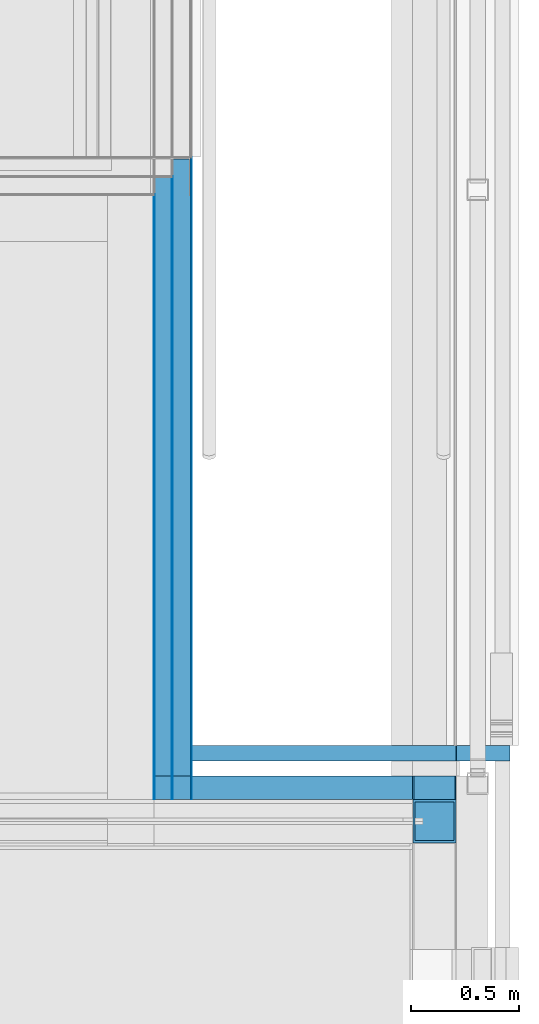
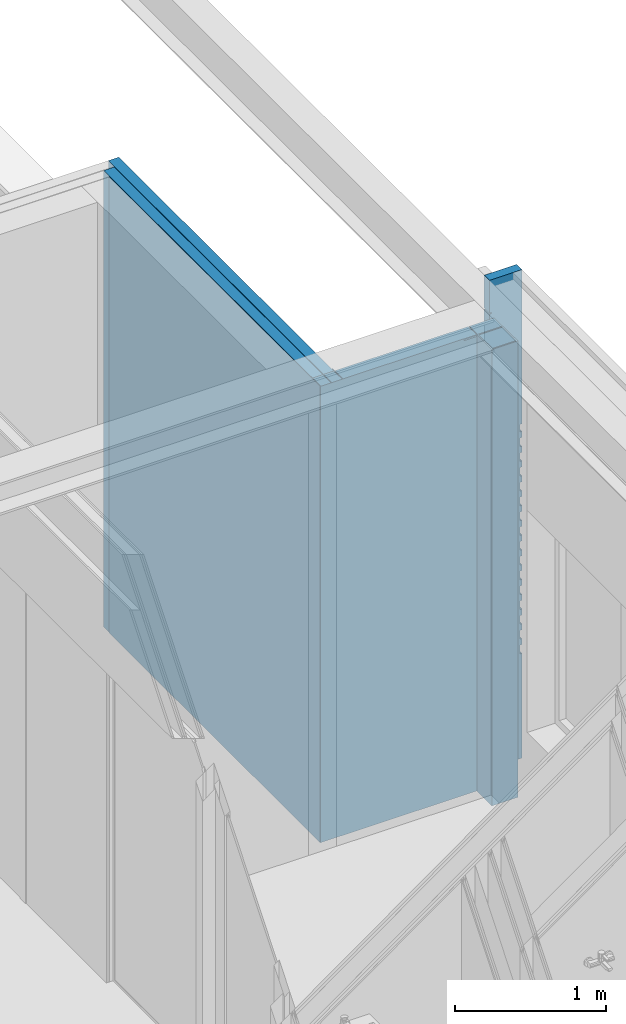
# One storey, part 89 of 137: 10 building element parts, 3 elements without a shape of their own.
"""IFC2X3 building model written with IfcOpenShell, lengths in millimetres."""

import ifcopenshell
import ifcopenshell.guid

model = None  # the IFC model being written
_history = None  # IfcOwnerHistory: only IFC2X3 demands one
_inside = {}  # id of a spatial element -> (the spatial element, [elements in it])
_under = {}  # id of a project, library or spatial element -> (it, [spatial elements below it])
_declared = {}  # id of a project -> (the project, [libraries it declares])
_typed = {}  # id of a type object -> (the type object, [elements of that type])
_made_of = {}  # id of a material, layer set ... -> (it, [elements and type objects made of it])


def new_model(schema):
    """Start an empty IFC model of exactly this schema.

    Asked for "IFC4X3", IfcOpenShell would pick the latest addendum, in which some entities
    have other attributes; the version numbers below select the first issue.
    IFC2X3 requires an IfcOwnerHistory on every rooted entity: one is made here for all.
    """
    global model, _history
    if schema == "IFC4X3":
        model = ifcopenshell.file(schema_version=(4, 3, 0, 0))
    else:
        model = ifcopenshell.file(schema=schema)
    _inside.clear()
    _under.clear()
    _declared.clear()
    _typed.clear()
    _made_of.clear()
    _history = None
    if model.schema == "IFC2X3":
        org = make("IfcOrganization", Name="unknown")
        user = make(
            "IfcPersonAndOrganization",
            ThePerson=make("IfcPerson", FamilyName="unknown"),
            TheOrganization=org,
        )
        app = make(
            "IfcApplication",
            ApplicationDeveloper=org,
            Version="unknown",
            ApplicationFullName="unknown",
            ApplicationIdentifier="unknown",
        )
        _history = make(
            "IfcOwnerHistory",
            OwningUser=user,
            OwningApplication=app,
            ChangeAction="ADDED",
            CreationDate=0,
        )
    return model


def make(cls, **values):
    """One entity of the class cls with the attributes given. An attribute that is None is left unset."""
    return model.create_entity(
        cls, **{name: value for name, value in values.items() if value is not None}
    )


def entity(cls, *values):
    """Any entity or typed value of the class cls, its attributes in the order of the schema. None: left unset."""
    e = model.create_entity(cls)
    for i, value in enumerate(values):
        if value is not None:
            e[i] = value
    return e


def rooted(cls, **values):
    """An entity with a GlobalId (a new one), such as an element, a storey or a relation."""
    return make(cls, GlobalId=ifcopenshell.guid.new(), OwnerHistory=_history, **values)


def si_unit(unit_type, name, prefix=None):
    """IfcSIUnit, for example si_unit("LENGTHUNIT", "METRE", prefix="MILLI")."""
    return make("IfcSIUnit", UnitType=unit_type, Prefix=prefix, Name=name)


def converted_unit(unit_type, name, factor, base, dimensions=None, offset=None):
    """IfcConversionBasedUnit, such as the inch: factor (a typed value) times the base unit."""
    return make(
        "IfcConversionBasedUnit"
        if offset is None
        else "IfcConversionBasedUnitWithOffset",
        ConversionOffset=offset,
        Dimensions=None
        if dimensions is None
        else entity("IfcDimensionalExponents", *dimensions),
        UnitType=unit_type,
        Name=name,
        ConversionFactor=make(
            "IfcMeasureWithUnit", ValueComponent=factor, UnitComponent=base
        ),
    )


def derived_unit(unit_type, elements):
    """IfcDerivedUnit: a product of units, each with its exponent."""
    return make(
        "IfcDerivedUnit",
        Elements=[
            make("IfcDerivedUnitElement", Unit=unit, Exponent=power)
            for unit, power in elements
        ],
        UnitType=unit_type,
    )


def money_unit(currency):
    """IfcMonetaryUnit."""
    return make("IfcMonetaryUnit", Currency=currency)


def assignment(units):
    """IfcUnitAssignment: the units of a project."""
    return None if units is None else make("IfcUnitAssignment", Units=units)


def point(xyz):
    """IfcCartesianPoint."""
    return None if xyz is None else make("IfcCartesianPoint", Coordinates=xyz)


def direction(xyz):
    """IfcDirection."""
    return None if xyz is None else make("IfcDirection", DirectionRatios=xyz)


def frame(location, z_axis=None, x_axis=None):
    """IfcAxis2Placement3D, a coordinate frame: its origin and axes. An axis left out is left unset."""
    return make(
        "IfcAxis2Placement3D",
        Location=point(location),
        Axis=direction(z_axis),
        RefDirection=direction(x_axis),
    )


def origin_with_axes():
    """The frame at (0, 0, 0) with the z axis (0, 0, 1) and the x axis (1, 0, 0) written out."""
    return frame((0.0, 0.0, 0.0), z_axis=(0.0, 0.0, 1.0), x_axis=(1.0, 0.0, 0.0))


def place(relative_to, where):
    """IfcLocalPlacement: puts the frame where relative to a parent placement (None: the world)."""
    return make(
        "IfcLocalPlacement", PlacementRelTo=relative_to, RelativePlacement=where
    )


def context(
    kind, dimensions, precision=None, world=None, true_north=None, identifier=None
):
    """IfcGeometricRepresentationContext, for example the 3D "Model" context."""
    return make(
        "IfcGeometricRepresentationContext",
        ContextIdentifier=identifier,
        ContextType=kind,
        CoordinateSpaceDimension=dimensions,
        Precision=precision,
        WorldCoordinateSystem=world,
        TrueNorth=true_north,
    )


def subcontext(parent, identifier, kind, view, scale=None):
    """IfcGeometricRepresentationSubContext, for example "Body" below "Model"."""
    return make(
        "IfcGeometricRepresentationSubContext",
        ContextIdentifier=identifier,
        ContextType=kind,
        ParentContext=parent,
        TargetScale=scale,
        TargetView=view,
    )


def project(units=None, contexts=None):
    """IfcProject with its units and contexts."""
    return rooted(
        "IfcProject",
        Name="project",
        RepresentationContexts=contexts,
        UnitsInContext=assignment(units),
    )


def spatial(cls, under=None, at=None, **own):
    """A site, building, storey or space (cls), placed at a placement, below another one or the project."""
    s = rooted(cls, ObjectPlacement=at, **own)
    if under is not None:
        _under.setdefault(under.id(), (under, []))[1].append(s)
    return s


def faces_of(points, faces, orient=None, outer=None):
    """IfcFace entities. A face is a list of loops; a loop is a list of indices into points, from 0.

    orient and outer hold one flag for each loop. By default every Orientation is true, the
    first loop of a face is its IfcFaceOuterBound and the others are IfcFaceBound.
    """
    made = []
    for i, loops in enumerate(faces):
        bounds = []
        for j, loop in enumerate(loops):
            is_outer = j == 0 if outer is None else outer[i][j]
            bounds.append(
                make(
                    "IfcFaceOuterBound" if is_outer else "IfcFaceBound",
                    Bound=make("IfcPolyLoop", Polygon=[points[k] for k in loop]),
                    Orientation=True if orient is None else orient[i][j],
                )
            )
        made.append(make("IfcFace", Bounds=bounds))
    return made


def faceted_brep(points, faces, orient=None, outer=None, voids=None):
    """IfcFacetedBrep: a solid bounded by flat faces; with voids (closed shells), ...WithVoids."""
    shared = [point(p) for p in points]
    hull = make("IfcClosedShell", CfsFaces=faces_of(shared, faces, orient, outer))
    if voids is None:
        return make("IfcFacetedBrep", Outer=hull)
    return make(
        "IfcFacetedBrepWithVoids",
        Outer=hull,
        Voids=[
            make(cls, CfsFaces=faces_of(shared, fs, o, b)) for cls, fs, o, b in voids
        ],
    )


def shape(context_of_items, identifier, shape_type, items):
    """IfcShapeRepresentation: the items that make up one representation, for example the "Body"."""
    return make(
        "IfcShapeRepresentation",
        ContextOfItems=context_of_items,
        RepresentationIdentifier=identifier,
        RepresentationType=shape_type,
        Items=items,
    )


def material(Name=None, Category=None):
    """IfcMaterial."""
    return make("IfcMaterial", Name=Name, Category=Category)


def made_of(thing, what):
    """Note that an element or type object is made of a material, layer set ...; save() writes the relation."""
    if what is not None:
        _made_of.setdefault(what.id(), (what, []))[1].append(thing)
    return thing


def type_object(cls, material=None, **own):
    """A type object (cls), such as IfcWallType, which elements share."""
    return made_of(rooted(cls, **own), material)


def element(
    cls,
    number,
    at=None,
    inside=None,
    cuts=None,
    type_object=None,
    material=None,
    context=None,
    identifier="Body",
    shape_type=None,
    held_by="IfcProductDefinitionShape",
    body=None,
    shapes=None,
    **own,
):
    """One element of the class cls, such as IfcWall. Its Tag is "e" and its number.

    at: its placement. inside: the storey or other place that contains it. cuts: it is an
    opening in that element (IfcRelVoidsElement). A single representation is given by context,
    identifier, shape_type and body (its items); several are given by shapes. held_by: the class
    of the entity that holds the representations. save() writes the other relations.
    """
    e = rooted(cls, Tag="e%d" % number, ObjectPlacement=at, **own)
    if body is not None:
        shapes = [shape(context, identifier, shape_type, body)]
    if shapes is not None:
        e.Representation = make(held_by, Representations=shapes)
    if inside is not None:
        _inside.setdefault(inside.id(), (inside, []))[1].append(e)
    if cuts is not None:
        rooted(
            "IfcRelVoidsElement", RelatingBuildingElement=cuts, RelatedOpeningElement=e
        )
    if type_object is not None:
        _typed.setdefault(type_object.id(), (type_object, []))[1].append(e)
    return made_of(e, material)


def aggregate(whole, parts):
    """IfcRelAggregates: a whole, such as a stair, and the parts it consists of."""
    return rooted("IfcRelAggregates", RelatingObject=whole, RelatedObjects=parts)


def save(model, path):
    """Write the relations noted so far, then the file.

    IfcRelAggregates (storeys below a building ...), IfcRelContainedInSpatialStructure (elements
    in a storey), IfcRelDefinesByType, IfcRelAssociatesMaterial and IfcRelDeclares: one each for
    every whole, place, type object, material and project.
    """
    for whole, parts in _under.values():
        aggregate(whole, parts)
    for where, things in _inside.values():
        rooted(
            "IfcRelContainedInSpatialStructure",
            RelatedElements=things,
            RelatingStructure=where,
        )
    for kind, things in _typed.values():
        rooted("IfcRelDefinesByType", RelatedObjects=things, RelatingType=kind)
    for what, things in _made_of.values():
        rooted("IfcRelAssociatesMaterial", RelatedObjects=things, RelatingMaterial=what)
    for by, libraries in _declared.values():
        rooted("IfcRelDeclares", RelatingContext=by, RelatedDefinitions=libraries)
    model.write(path)


model = new_model("IFC2X3")

# Units and contexts
model_context = context("Model", 3, precision=0.01, world=origin_with_axes(), true_north=direction((0.0, 1.0)))
body_context = subcontext(model_context, "Body", "Model", "MODEL_VIEW")
ifc_project = project(units=[si_unit("LENGTHUNIT", "METRE", prefix="MILLI"), si_unit("AREAUNIT", "SQUARE_METRE"), si_unit("VOLUMEUNIT", "CUBIC_METRE"), converted_unit("PLANEANGLEUNIT", "DEGREE", entity("IfcPlaneAngleMeasure", 0.0174532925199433), si_unit("PLANEANGLEUNIT", "RADIAN"), dimensions=[0, 0, 0, 0, 0, 0, 0]), money_unit("EUR"), converted_unit("TIMEUNIT", "Year", entity("IfcTimeMeasure", 31556926.0), si_unit("TIMEUNIT", "SECOND"), dimensions=[0, 0, 1, 0, 0, 0, 0]), si_unit("MASSUNIT", "GRAM", prefix="KILO"), si_unit("THERMODYNAMICTEMPERATUREUNIT", "DEGREE_CELSIUS"), si_unit("LUMINOUSINTENSITYUNIT", "LUMEN"), si_unit("ENERGYUNIT", "JOULE", prefix="MEGA"), derived_unit("THERMALCONDUCTANCEUNIT", [(si_unit("POWERUNIT", "WATT"), 1), (si_unit("LENGTHUNIT", "METRE"), -1), (si_unit("THERMODYNAMICTEMPERATUREUNIT", "KELVIN"), -1)]), derived_unit("SPECIFICHEATCAPACITYUNIT", [(si_unit("ENERGYUNIT", "JOULE"), 1), (si_unit("MASSUNIT", "GRAM", prefix="KILO"), -1), (si_unit("THERMODYNAMICTEMPERATUREUNIT", "KELVIN"), -1)]), derived_unit("MASSDENSITYUNIT", [(si_unit("MASSUNIT", "GRAM", prefix="KILO"), 1), (si_unit("VOLUMEUNIT", "CUBIC_METRE"), -1)])], contexts=[model_context])

# Site, building, storey
site_placement = place(None, origin_with_axes())
site = spatial("IfcSite", under=ifc_project, at=site_placement, Name="Site", CompositionType="ELEMENT")
building_placement = place(site_placement, origin_with_axes())
building = spatial("IfcBuilding", under=site, at=building_placement, Name="Naam gebouw", CompositionType="ELEMENT")
storey_placement = place(building_placement, frame((0.0, 0.0, 3960.0), z_axis=(0.0, 0.0, 1.0), x_axis=(1.0, 0.0, 0.0)))
storey = spatial("IfcBuildingStorey", under=building, at=storey_placement, Name="1e verdieping", CompositionType="ELEMENT", Elevation=3960.0)

# Wall, building element parts
wall_type_1 = type_object("IfcWallType", Name="21 Buitenwand spouwmuur HSB 464", PredefinedType="NOTDEFINED")
wall_1_placement = place(storey_placement, frame((28500.00002397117, 16749.99778166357, -100.0000000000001), z_axis=(0.0, 0.0, 1.0), x_axis=(1.0, 0.0, 0.0)))
wall_1 = element("IfcWall", 1, at=wall_1_placement, inside=storey, type_object=wall_type_1, Name="21_Wand-x")
ifc_material_1 = material(Name="Steen - Baksteen")
building_element_part_1_placement = place(wall_1_placement, origin_with_axes())
building_element_part_1 = element("IfcBuildingElementPart", 2, at=building_element_part_1_placement, material=ifc_material_1, Name="Steen - Baksteen", context=body_context, shape_type="Brep", body=[
    faceted_brep([(1650.000004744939, 235.0000287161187, 970.0000070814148), (1650.000004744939, 179.9999999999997, 970.0000070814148), (1650.000004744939, 179.9999999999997, 920.0000357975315), (1650.000004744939, 235.0000287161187, 920.0000357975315), (1649.999976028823, 250.0000287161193, 920.0000357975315), (1649.999976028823, 250.0000287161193, 970.0000070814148), (1635.000004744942, 235.0000287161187, 970.0000070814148), (1635.000004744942, 179.9999999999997, 970.0000070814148), (0.0, 250.0000287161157, 970.0000070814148), (0.0, 235.0000287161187, 970.0000070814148), (1635.000004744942, 179.9999999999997, 2710.0), (1649.999976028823, 179.9999999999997, 2710.0), (1649.999976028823, 179.9999999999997, 3960.0), (1400.999975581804, 179.9999999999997, 3960.000001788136), (1400.999975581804, 179.9999999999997, 3695.000001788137), (1415.999975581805, 179.9999999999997, 3695.000001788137), (1415.999975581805, 179.9999999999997, 3685.000001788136), (1399.999976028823, 179.9999999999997, 3685.000001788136), (1399.999976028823, 179.9999999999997, 3555.0), (168.0000000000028, 179.9999999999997, 3555.0), (168.0000000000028, 179.9999999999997, 3700.0), (0.0, 179.9999999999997, 3700.0), (0.0, 179.9999999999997, 0.0), (1649.999976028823, 179.9999999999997, 0.0), (1649.999976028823, 179.9999999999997, 850.0000371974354), (1635.000004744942, 179.9999999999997, 850.0000371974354), (1635.000004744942, 179.9999999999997, 920.0000357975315), (1635.000004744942, 179.9999999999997, 1040.000005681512), (1650.000004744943, 179.9999999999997, 1040.000005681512), (1650.000004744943, 179.9999999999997, 1090.000060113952), (1635.000004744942, 179.9999999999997, 1090.000060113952), (1635.000004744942, 179.9999999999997, 1160.000030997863), (1650.000004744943, 179.9999999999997, 1160.000030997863), (1650.000004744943, 179.9999999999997, 1210.000002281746), (1635.000004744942, 179.9999999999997, 1210.000002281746), (1635.000004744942, 179.9999999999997, 1280.000000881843), (1650.000004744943, 179.9999999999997, 1280.000000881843), (1650.000004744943, 179.9999999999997, 1330.000055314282), (1635.000004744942, 179.9999999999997, 1330.000055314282), (1635.000004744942, 179.9999999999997, 1400.000026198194), (1650.000004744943, 179.9999999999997, 1400.000026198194), (1650.000004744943, 179.9999999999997, 1449.999997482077), (1635.000004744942, 179.9999999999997, 1449.999997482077), (1635.000004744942, 179.9999999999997, 1519.999996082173), (1650.000004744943, 179.9999999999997, 1519.999996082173), (1650.000004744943, 179.9999999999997, 1570.000050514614), (1635.000004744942, 179.9999999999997, 1570.000050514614), (1635.000004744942, 179.9999999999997, 1640.000049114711), (1650.000004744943, 179.9999999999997, 1640.000049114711), (1650.000004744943, 179.9999999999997, 1689.999992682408), (1635.000004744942, 179.9999999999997, 1689.999992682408), (1635.000004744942, 179.9999999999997, 1759.999991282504), (1650.000004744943, 179.9999999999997, 1759.999991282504), (1650.000004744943, 179.9999999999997, 1810.000073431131), (1635.000004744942, 179.9999999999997, 1810.000073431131), (1635.000004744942, 179.9999999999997, 1880.000044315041), (1650.000004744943, 179.9999999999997, 1880.000044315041), (1650.000004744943, 179.9999999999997, 1930.000015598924), (1635.000004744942, 179.9999999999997, 1930.000015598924), (1635.000004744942, 179.9999999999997, 1999.999986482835), (1650.000004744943, 179.9999999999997, 1999.999986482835), (1650.000004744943, 179.9999999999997, 2050.000068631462), (1635.000004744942, 179.9999999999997, 2050.000068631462), (1635.000004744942, 179.9999999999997, 2120.000039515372), (1650.000004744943, 179.9999999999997, 2120.000039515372), (1650.000004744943, 179.9999999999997, 2170.000010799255), (1635.000004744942, 179.9999999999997, 2170.000010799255), (1635.000004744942, 179.9999999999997, 2239.999981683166), (1650.000004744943, 179.9999999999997, 2239.999981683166), (1650.000004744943, 179.9999999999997, 2290.000063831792), (1635.000004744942, 179.9999999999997, 2290.000063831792), (1635.000004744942, 179.9999999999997, 2360.000062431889), (1650.000004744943, 179.9999999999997, 2360.000062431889), (1650.000004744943, 179.9999999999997, 2410.000005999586), (1635.000004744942, 179.9999999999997, 2410.000005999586), (1635.000004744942, 179.9999999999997, 2480.000004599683), (1650.000004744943, 179.9999999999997, 2480.000004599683), (1650.000004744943, 179.9999999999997, 2530.000059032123), (1635.000004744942, 179.9999999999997, 2530.000059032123), (1635.000004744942, 179.9999999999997, 2600.00005763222), (1650.000004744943, 179.9999999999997, 2600.00005763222), (1650.000004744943, 179.9999999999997, 2650.000001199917), (1635.000004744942, 179.9999999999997, 2650.000001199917), (1534.999976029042, 179.9999999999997, 646.8776725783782), (1464.999976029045, 179.9999999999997, 646.8776725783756), (1464.999976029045, 179.9999999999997, 725.000000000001), (1449.999976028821, 179.9999999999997, 725.000000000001), (1449.999976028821, 179.9999999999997, 825.0000000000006), (1549.999976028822, 179.9999999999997, 825.0000000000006), (1549.999976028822, 179.9999999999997, 725.000000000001), (1534.999976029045, 179.9999999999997, 725.000000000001), (1635.000004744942, 235.0000287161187, 920.0000357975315), (0.0, 235.0000287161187, 920.0000357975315), (0.0, 250.0000287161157, 920.0000357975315), (1635.000004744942, 235.0000287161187, 1040.000005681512), (0.0, 235.0000287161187, 2710.0), (0.0, 235.0000287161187, 2650.000001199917), (0.0, 250.0000287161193, 2650.000001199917), (0.0, 250.0000287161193, 2600.00005763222), (0.0, 235.0000287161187, 2600.00005763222), (0.0, 235.0000287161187, 2530.000059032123), (0.0, 250.0000287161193, 2530.000059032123), (0.0, 250.0000287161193, 2480.000004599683), (0.0, 235.0000287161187, 2480.000004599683), (0.0, 235.0000287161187, 2410.000005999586), (0.0, 250.0000287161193, 2410.000005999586), (0.0, 250.0000287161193, 2360.000062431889), (0.0, 235.0000287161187, 2360.000062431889), (0.0, 235.0000287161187, 2290.000063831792), (0.0, 250.0000287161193, 2290.000063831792), (0.0, 250.0000287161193, 2239.999981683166), (0.0, 235.0000287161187, 2239.999981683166), (0.0, 235.0000287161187, 2170.000010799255), (0.0, 250.0000287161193, 2170.000010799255), (0.0, 250.0000287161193, 2120.000039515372), (0.0, 235.0000287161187, 2120.000039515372), (0.0, 235.0000287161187, 2050.000068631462), (0.0, 250.0000287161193, 2050.000068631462), (0.0, 250.0000287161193, 1999.999986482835), (0.0, 235.0000287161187, 1999.999986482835), (0.0, 235.0000287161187, 1930.000015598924), (0.0, 250.0000287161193, 1930.000015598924), (0.0, 250.0000287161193, 1880.000044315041), (0.0, 235.0000287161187, 1880.000044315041), (0.0, 235.0000287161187, 1810.000073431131), (0.0, 250.0000287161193, 1810.000073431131), (0.0, 250.0000287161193, 1759.999991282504), (0.0, 235.0000287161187, 1759.999991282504), (0.0, 235.0000287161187, 1689.999992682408), (0.0, 250.0000287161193, 1689.999992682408), (0.0, 250.0000287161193, 1640.000049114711), (0.0, 235.0000287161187, 1640.000049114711), (0.0, 235.0000287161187, 1570.000050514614), (0.0, 250.0000287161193, 1570.000050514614), (0.0, 250.0000287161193, 1519.999996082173), (0.0, 235.0000287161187, 1519.999996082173), (0.0, 235.0000287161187, 1449.999997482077), (0.0, 250.0000287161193, 1449.999997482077), (0.0, 250.0000287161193, 1400.000026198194), (0.0, 235.0000287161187, 1400.000026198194), (0.0, 235.0000287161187, 1330.000055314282), (0.0, 250.0000287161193, 1330.000055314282), (0.0, 250.0000287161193, 1280.000000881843), (0.0, 235.0000287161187, 1280.000000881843), (0.0, 235.0000287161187, 1210.000002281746), (0.0, 250.0000287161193, 1210.000002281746), (0.0, 250.0000287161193, 1160.000030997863), (0.0, 235.0000287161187, 1160.000030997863), (0.0, 235.0000287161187, 1090.000060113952), (0.0, 250.0000287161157, 1090.000060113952), (0.0, 250.0000287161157, 1040.000005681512), (0.0, 235.0000287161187, 1040.000005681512), (0.0, 235.0000287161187, 850.0000371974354), (0.0, 250.0, 850.0000371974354), (0.0, 250.0, 0.0), (0.0, 250.0, 3700.0), (0.0, 250.0, 2710.0), (1649.999976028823, 235.0000287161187, 2710.0), (1635.000004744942, 235.0000287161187, 2710.0), (1649.999976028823, 250.0, 2710.0), (1649.999976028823, 250.0, 3960.0), (1400.999975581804, 250.0, 3960.000001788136), (1400.999975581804, 250.0, 3695.000001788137), (1415.999975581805, 250.0, 3695.000001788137), (1415.999975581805, 250.0, 3685.000001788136), (1399.999976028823, 250.0, 3685.000001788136), (1399.999976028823, 250.0, 3555.0), (168.0000000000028, 250.0, 3555.0), (168.0000000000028, 250.0, 3700.0), (1649.999976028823, 250.0, 0.0), (1649.999976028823, 235.0000287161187, 850.0000371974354), (1649.999976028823, 250.0, 850.0000371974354), (1635.000004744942, 235.0000287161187, 850.0000371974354), (1650.000004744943, 235.0000287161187, 1040.000005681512), (1649.999976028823, 250.0000287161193, 1040.000005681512), (1650.000004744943, 235.0000287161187, 1090.000060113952), (1649.999976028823, 250.0000287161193, 1090.000060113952), (1635.000004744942, 235.0000287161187, 1090.000060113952), (1635.000004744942, 235.0000287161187, 1160.000030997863), (1650.000004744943, 235.0000287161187, 1160.000030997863), (1649.999976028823, 250.0000287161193, 1160.000030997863), (1650.000004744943, 235.0000287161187, 1210.000002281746), (1649.999976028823, 250.0000287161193, 1210.000002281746), (1635.000004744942, 235.0000287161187, 1210.000002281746), (1635.000004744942, 235.0000287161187, 1280.000000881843), (1650.000004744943, 235.0000287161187, 1280.000000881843), (1649.999976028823, 250.0000287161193, 1280.000000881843), (1650.000004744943, 235.0000287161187, 1330.000055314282), (1649.999976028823, 250.0000287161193, 1330.000055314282), (1635.000004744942, 235.0000287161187, 1330.000055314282), (1635.000004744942, 235.0000287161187, 1400.000026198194), (1650.000004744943, 235.0000287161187, 1400.000026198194), (1649.999976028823, 250.0000287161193, 1400.000026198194), (1650.000004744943, 235.0000287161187, 1449.999997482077), (1649.999976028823, 250.0000287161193, 1449.999997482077), (1635.000004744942, 235.0000287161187, 1449.999997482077), (1635.000004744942, 235.0000287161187, 1519.999996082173), (1650.000004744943, 235.0000287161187, 1519.999996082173), (1649.999976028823, 250.0000287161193, 1519.999996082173), (1650.000004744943, 235.0000287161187, 1570.000050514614), (1649.999976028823, 250.0000287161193, 1570.000050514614), (1635.000004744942, 235.0000287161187, 1570.000050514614), (1635.000004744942, 235.0000287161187, 1640.000049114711), (1650.000004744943, 235.0000287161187, 1640.000049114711), (1649.999976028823, 250.0000287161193, 1640.000049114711), (1650.000004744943, 235.0000287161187, 1689.999992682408), (1649.999976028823, 250.0000287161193, 1689.999992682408), (1635.000004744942, 235.0000287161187, 1689.999992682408), (1635.000004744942, 235.0000287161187, 1759.999991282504), (1650.000004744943, 235.0000287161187, 1759.999991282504), (1649.999976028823, 250.0000287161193, 1759.999991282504), (1650.000004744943, 235.0000287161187, 1810.000073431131), (1649.999976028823, 250.0000287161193, 1810.000073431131), (1635.000004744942, 235.0000287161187, 1810.000073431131), (1635.000004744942, 235.0000287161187, 1880.000044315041), (1650.000004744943, 235.0000287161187, 1880.000044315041), (1649.999976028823, 250.0000287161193, 1880.000044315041), (1650.000004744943, 235.0000287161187, 1930.000015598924), (1649.999976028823, 250.0000287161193, 1930.000015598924), (1635.000004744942, 235.0000287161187, 1930.000015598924), (1635.000004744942, 235.0000287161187, 1999.999986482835), (1650.000004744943, 235.0000287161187, 1999.999986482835), (1649.999976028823, 250.0000287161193, 1999.999986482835), (1650.000004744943, 235.0000287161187, 2050.000068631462), (1649.999976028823, 250.0000287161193, 2050.000068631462), (1635.000004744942, 235.0000287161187, 2050.000068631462), (1635.000004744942, 235.0000287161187, 2120.000039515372), (1650.000004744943, 235.0000287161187, 2120.000039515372), (1649.999976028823, 250.0000287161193, 2120.000039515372), (1650.000004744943, 235.0000287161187, 2170.000010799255), (1649.999976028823, 250.0000287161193, 2170.000010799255), (1635.000004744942, 235.0000287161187, 2170.000010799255), (1635.000004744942, 235.0000287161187, 2239.999981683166), (1650.000004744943, 235.0000287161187, 2239.999981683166), (1649.999976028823, 250.0000287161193, 2239.999981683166), (1650.000004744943, 235.0000287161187, 2290.000063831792), (1649.999976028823, 250.0000287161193, 2290.000063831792), (1635.000004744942, 235.0000287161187, 2290.000063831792), (1635.000004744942, 235.0000287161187, 2360.000062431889), (1650.000004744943, 235.0000287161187, 2360.000062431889), (1649.999976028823, 250.0000287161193, 2360.000062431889), (1650.000004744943, 235.0000287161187, 2410.000005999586), (1649.999976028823, 250.0000287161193, 2410.000005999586), (1635.000004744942, 235.0000287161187, 2410.000005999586), (1635.000004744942, 235.0000287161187, 2480.000004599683), (1650.000004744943, 235.0000287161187, 2480.000004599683), (1649.999976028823, 250.0000287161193, 2480.000004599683), (1650.000004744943, 235.0000287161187, 2530.000059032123), (1649.999976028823, 250.0000287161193, 2530.000059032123), (1635.000004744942, 235.0000287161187, 2530.000059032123), (1635.000004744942, 235.0000287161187, 2600.00005763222), (1650.000004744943, 235.0000287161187, 2600.00005763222), (1649.999976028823, 250.0000287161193, 2600.00005763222), (1650.000004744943, 235.0000287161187, 2650.000001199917), (1649.999976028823, 250.0000287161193, 2650.000001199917), (1635.000004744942, 235.0000287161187, 2650.000001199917), (1464.999976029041, 250.0, 600.7833329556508), (1534.999976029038, 250.0, 600.7833329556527), (1464.999976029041, 250.0, 684.596745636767), (1464.999976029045, 188.6426223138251, 725.000000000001), (1534.999976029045, 188.6426223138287, 725.000000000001), (1549.999976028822, 250.0, 725.000000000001), (1449.999976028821, 250.0, 725.000000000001), (1449.999976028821, 250.0, 825.0000000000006), (1549.999976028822, 250.0, 825.0000000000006), (1534.999976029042, 250.0, 684.5967456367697)], [[[0, 1, 2, 3, 4, 5]], [[6, 7, 1, 0, 5, 8, 9]], [[10, 11, 12, 13, 14, 15, 16, 17, 18, 19, 20, 21, 22, 23, 24, 25, 26, 2, 1, 7, 27, 28, 29, 30, 31, 32, 33, 34, 35, 36, 37, 38, 39, 40, 41, 42, 43, 44, 45, 46, 47, 48, 49, 50, 51, 52, 53, 54, 55, 56, 57, 58, 59, 60, 61, 62, 63, 64, 65, 66, 67, 68, 69, 70, 71, 72, 73, 74, 75, 76, 77, 78, 79, 80, 81, 82], [83, 84, 85, 86, 87, 88, 89, 90]], [[3, 2, 26, 91, 92, 93, 4]], [[93, 8, 5, 4]], [[6, 94, 27, 7]], [[95, 96, 97, 98, 99, 100, 101, 102, 103, 104, 105, 106, 107, 108, 109, 110, 111, 112, 113, 114, 115, 116, 117, 118, 119, 120, 121, 122, 123, 124, 125, 126, 127, 128, 129, 130, 131, 132, 133, 134, 135, 136, 137, 138, 139, 140, 141, 142, 143, 144, 145, 146, 147, 148, 149, 150, 151, 9, 8, 93, 92, 152, 153, 154, 22, 21, 155, 156]], [[94, 6, 9, 151]], [[157, 11, 10, 158, 95, 156, 159]], [[11, 157, 159, 160, 12]], [[13, 12, 160, 161]], [[161, 162, 14, 13]], [[163, 15, 14, 162]], [[164, 16, 15, 163]], [[16, 164, 165, 17]], [[166, 18, 17, 165]], [[19, 18, 166, 167]], [[20, 19, 167, 168]], [[155, 21, 20, 168]], [[169, 23, 22, 154]], [[170, 24, 23, 169, 171]], [[172, 25, 24, 170, 171, 153, 152]], [[172, 91, 26, 25]], [[173, 28, 27, 94, 151, 150, 174]], [[175, 29, 28, 173, 174, 176]], [[177, 30, 29, 175, 176, 149, 148]], [[177, 178, 31, 30]], [[179, 32, 31, 178, 147, 146, 180]], [[181, 33, 32, 179, 180, 182]], [[183, 34, 33, 181, 182, 145, 144]], [[183, 184, 35, 34]], [[185, 36, 35, 184, 143, 142, 186]], [[187, 37, 36, 185, 186, 188]], [[189, 38, 37, 187, 188, 141, 140]], [[189, 190, 39, 38]], [[191, 40, 39, 190, 139, 138, 192]], [[193, 41, 40, 191, 192, 194]], [[195, 42, 41, 193, 194, 137, 136]], [[195, 196, 43, 42]], [[197, 44, 43, 196, 135, 134, 198]], [[199, 45, 44, 197, 198, 200]], [[201, 46, 45, 199, 200, 133, 132]], [[201, 202, 47, 46]], [[203, 48, 47, 202, 131, 130, 204]], [[205, 49, 48, 203, 204, 206]], [[207, 50, 49, 205, 206, 129, 128]], [[207, 208, 51, 50]], [[209, 52, 51, 208, 127, 126, 210]], [[211, 53, 52, 209, 210, 212]], [[213, 54, 53, 211, 212, 125, 124]], [[213, 214, 55, 54]], [[215, 56, 55, 214, 123, 122, 216]], [[217, 57, 56, 215, 216, 218]], [[219, 58, 57, 217, 218, 121, 120]], [[219, 220, 59, 58]], [[221, 60, 59, 220, 119, 118, 222]], [[223, 61, 60, 221, 222, 224]], [[225, 62, 61, 223, 224, 117, 116]], [[225, 226, 63, 62]], [[227, 64, 63, 226, 115, 114, 228]], [[229, 65, 64, 227, 228, 230]], [[231, 66, 65, 229, 230, 113, 112]], [[231, 232, 67, 66]], [[233, 68, 67, 232, 111, 110, 234]], [[235, 69, 68, 233, 234, 236]], [[237, 70, 69, 235, 236, 109, 108]], [[237, 238, 71, 70]], [[239, 72, 71, 238, 107, 106, 240]], [[241, 73, 72, 239, 240, 242]], [[243, 74, 73, 241, 242, 105, 104]], [[243, 244, 75, 74]], [[245, 76, 75, 244, 103, 102, 246]], [[247, 77, 76, 245, 246, 248]], [[249, 78, 77, 247, 248, 101, 100]], [[249, 250, 79, 78]], [[251, 80, 79, 250, 99, 98, 252]], [[253, 81, 80, 251, 252, 254]], [[255, 82, 81, 253, 254, 97, 96]], [[255, 158, 10, 82]], [[256, 84, 83, 257]], [[84, 256, 258, 259, 85]], [[260, 90, 89, 261, 262, 86, 85, 259]], [[263, 87, 86, 262]], [[264, 88, 87, 263]], [[261, 89, 88, 264]], [[265, 257, 83, 90, 260]], [[91, 172, 152, 92]], [[158, 255, 96, 95]], [[98, 97, 254, 252]], [[250, 249, 100, 99]], [[102, 101, 248, 246]], [[244, 243, 104, 103]], [[106, 105, 242, 240]], [[238, 237, 108, 107]], [[110, 109, 236, 234]], [[232, 231, 112, 111]], [[114, 113, 230, 228]], [[226, 225, 116, 115]], [[118, 117, 224, 222]], [[220, 219, 120, 119]], [[122, 121, 218, 216]], [[214, 213, 124, 123]], [[126, 125, 212, 210]], [[208, 207, 128, 127]], [[130, 129, 206, 204]], [[202, 201, 132, 131]], [[134, 133, 200, 198]], [[196, 195, 136, 135]], [[138, 137, 194, 192]], [[190, 189, 140, 139]], [[142, 141, 188, 186]], [[184, 183, 144, 143]], [[146, 145, 182, 180]], [[178, 177, 148, 147]], [[150, 149, 176, 174]], [[154, 153, 171, 169], [257, 265, 258, 256], [261, 264, 263, 262]], [[160, 159, 156, 155, 168, 167, 166, 165, 164, 163, 162, 161]], [[259, 258, 265, 260]]]),
    faceted_brep([(1469.999976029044, 179.9999999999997, 652.8643449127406), (1529.999976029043, 179.9999999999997, 652.8643449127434), (1529.999976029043, 179.9999999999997, 724.7044129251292), (1469.999976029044, 179.9999999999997, 724.7044129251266), (1469.99997602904, 250.0, 606.770005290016), (1529.999976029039, 250.0, 606.7700052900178), (1529.999976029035, 250.0, 678.6100733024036), (1469.999976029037, 250.0, 678.610073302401)], [[[0, 1, 2, 3]], [[4, 5, 1, 0]], [[5, 6, 2, 1]], [[6, 7, 3, 2]], [[7, 4, 0, 3]], [[4, 7, 6, 5]]]),
    faceted_brep([(1534.999976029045, 179.9999999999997, 730.0000000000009), (1544.999976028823, 179.9999999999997, 730.0000000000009), (1544.999976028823, 179.9999999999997, 820.0000000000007), (1454.999976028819, 179.9999999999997, 820.0000000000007), (1454.999976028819, 179.9999999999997, 730.0000000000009), (1464.999976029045, 179.9999999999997, 730.0000000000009), (1464.999976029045, 179.9999999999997, 730.6910852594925), (1534.999976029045, 179.9999999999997, 730.6910852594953), (1454.999976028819, 250.0, 730.0000000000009), (1544.999976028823, 250.0, 730.0000000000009), (1534.999976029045, 181.0494991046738, 730.0000000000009), (1464.999976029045, 181.0494991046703, 730.0000000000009), (1544.999976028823, 250.0, 820.0000000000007), (1454.999976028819, 250.0, 820.0000000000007)], [[[0, 1, 2, 3, 4, 5, 6, 7]], [[8, 9, 1, 0, 10, 11, 5, 4]], [[9, 12, 2, 1]], [[12, 13, 3, 2]], [[13, 8, 4, 3]], [[5, 11, 6]], [[11, 10, 7, 6]], [[10, 0, 7]], [[8, 13, 12, 9]]]),
])
ifc_material_2 = material(Name="Isolatie - Steenwol zacht")
building_element_part_2_placement = place(wall_1_placement, origin_with_axes())
building_element_part_2 = element("IfcBuildingElementPart", 3, at=building_element_part_2_placement, material=ifc_material_2, Name="Isolatie - Steenwol zacht", context=body_context, shape_type="Brep", body=[
    faceted_brep([(1394.999975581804, 109.9999999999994, 3700.0), (1204.999975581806, 109.9999999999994, 3700.0), (1204.999975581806, 0.0, 3700.0), (1394.999975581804, 0.0, 3700.0), (1394.999975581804, 109.9999999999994, 3695.000001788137), (1204.999975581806, 109.9999999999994, 3695.000001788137), (1204.999975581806, 0.0, 3695.000001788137), (1394.999975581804, 0.0, 3695.000001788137)], [[[0, 1, 2, 3]], [[4, 5, 1, 0]], [[6, 2, 1, 5]], [[6, 7, 3, 2]], [[7, 4, 0, 3]], [[6, 5, 4, 7]]]),
    faceted_brep([(1198.999975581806, 109.9999999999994, 3695.000001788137), (1100.999971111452, 109.9999999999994, 3695.000001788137), (1100.999971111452, 109.9999999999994, 3685.000001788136), (1399.999976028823, 109.9999999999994, 3685.000001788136), (1399.999976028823, 109.9999999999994, 0.0), (0.0, 109.9999999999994, 0.0), (0.0, 109.9999999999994, 3700.0), (1198.999975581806, 109.9999999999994, 3700.0), (1100.999971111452, 0.0, 3695.000001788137), (1198.999975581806, 0.0, 3695.000001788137), (1100.999971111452, 0.0, 3685.000001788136), (1399.999976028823, 0.0, 3685.000001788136), (1399.999976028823, 0.0, 0.0), (0.0, 0.0, 0.0), (0.0, 0.0, 3700.0), (1198.999975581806, 0.0, 3700.0)], [[[0, 1, 2, 3, 4, 5, 6, 7]], [[8, 1, 0, 9]], [[10, 2, 1, 8]], [[10, 11, 3, 2]], [[4, 3, 11, 12]], [[13, 5, 4, 12]], [[5, 13, 14, 6]], [[14, 15, 7, 6]], [[9, 0, 7, 15]], [[8, 9, 15, 14, 13, 12, 11, 10]]]),
])
aggregate(wall_1, [building_element_part_1, building_element_part_2])

wall_type_2 = type_object("IfcWallType", Name="21 STO Buitengevelisolatie 160 390", PredefinedType="NOTDEFINED")
wall_2_placement = place(storey_placement, frame((28500.00002397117, 19550.00039292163, -100.0000000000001), z_axis=(0.0, 0.0, 1.0), x_axis=(0.0, -1.0, 0.0)))
wall_2 = element("IfcWall", 4, at=wall_2_placement, inside=storey, type_object=wall_type_2, Name="21_Wand-x")
ifc_material_3 = material(Name="STO pleisterlaag")
building_element_part_3_placement = place(wall_2_placement, origin_with_axes())
building_element_part_3 = element("IfcBuildingElementPart", 5, at=building_element_part_3_placement, material=ifc_material_3, Name="STO pleisterlaag", context=body_context, shape_type="Brep", body=[
    faceted_brep([(-176.0000096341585, 173.0000000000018, 3555.0), (-176.0000096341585, 176.0000000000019, 3555.0), (-175.9999979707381, 175.9999999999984, 0.0), (-175.9999979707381, 172.9999999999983, 0.0), (2662.002611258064, 175.9999999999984, 3555.0), (2662.002611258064, 172.9999999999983, 3555.0), (2662.002611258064, 175.9999999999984, 3700.0), (2799.002611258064, 175.9999999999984, 3700.0), (2799.002611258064, 175.9999999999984, 0.0), (2799.002611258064, 172.9999999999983, 0.0), (2799.002611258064, 172.9999999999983, 3700.0), (2662.002611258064, 172.9999999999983, 3700.0)], [[[0, 1, 2, 3]], [[4, 1, 0, 5]], [[4, 6, 7, 8, 2, 1]], [[3, 2, 8, 9]], [[5, 0, 3, 9, 10, 11]], [[11, 6, 4, 5]], [[6, 11, 10, 7]], [[9, 8, 7, 10]]]),
])
ifc_material_4 = material(Name="Isolatie - STO EPS")
building_element_part_4_placement = place(wall_2_placement, origin_with_axes())
building_element_part_4 = element("IfcBuildingElementPart", 6, at=building_element_part_4_placement, material=ifc_material_4, Name="Isolatie - STO EPS", context=body_context, shape_type="Brep", body=[
    faceted_brep([(-167.9999999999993, 167.9999999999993, 0.0), (-167.9999999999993, 88.00000000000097, 0.0), (-167.9999999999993, 88.00000000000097, 3700.0), (-167.9999999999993, 167.9999999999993, 3700.0), (2799.002611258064, 167.9999999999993, 0.0), (2799.002611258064, 88.00000000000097, 0.0), (2799.002611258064, 88.00000000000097, 3700.0), (2799.002611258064, 167.9999999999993, 3700.0)], [[[0, 1, 2, 3]], [[0, 4, 5, 1]], [[1, 5, 6, 2]], [[2, 6, 7, 3]], [[4, 0, 3, 7]], [[5, 4, 7, 6]]]),
])
ifc_material_5 = material(Name="STO weefsellaag")
building_element_part_5_placement = place(wall_2_placement, origin_with_axes())
building_element_part_5 = element("IfcBuildingElementPart", 7, at=building_element_part_5_placement, material=ifc_material_5, Name="STO weefsellaag", context=body_context, shape_type="Brep", body=[
    faceted_brep([(-173.0000000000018, 167.9999999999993, 3555.0), (-173.0000000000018, 173.0000000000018, 3555.0), (-173.0000000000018, 172.9999999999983, 0.0), (-173.0000000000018, 167.9999999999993, 0.0), (2662.002611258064, 172.9999999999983, 3555.0), (-168.0000000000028, 168.0000000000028, 3555.0), (2662.002611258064, 168.0000000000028, 3555.0), (2662.002611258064, 172.9999999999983, 3700.0), (2799.002611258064, 172.9999999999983, 3700.0), (2799.002611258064, 172.9999999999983, 0.0), (2799.002611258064, 167.9999999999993, 0.0), (2799.002611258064, 167.9999999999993, 3700.0), (2662.002611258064, 168.0000000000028, 3700.0)], [[[0, 1, 2, 3]], [[4, 1, 0, 5, 6]], [[4, 7, 8, 9, 2, 1]], [[2, 9, 10, 3]], [[5, 0, 3, 10, 11, 12, 6]], [[12, 7, 4, 6]], [[7, 12, 11, 8]], [[10, 9, 8, 11]]]),
])
ifc_material_6 = material(Name="STO lijmlaag")
building_element_part_6_placement = place(wall_2_placement, origin_with_axes())
building_element_part_6 = element("IfcBuildingElementPart", 8, at=building_element_part_6_placement, material=ifc_material_6, Name="STO lijmlaag", context=body_context, shape_type="Brep", body=[
    faceted_brep([(-88.00000000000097, 88.00000000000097, 0.0), (-88.00000000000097, 83.99999999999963, 0.0), (-88.00000000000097, 83.99999999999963, 3700.0), (-88.00000000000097, 88.00000000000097, 3700.0), (2799.002611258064, 88.00000000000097, 0.0), (2799.002611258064, 83.99999999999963, 0.0), (2799.002611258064, 83.99999999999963, 3700.0), (2799.002611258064, 88.00000000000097, 3700.0)], [[[0, 1, 2, 3]], [[0, 4, 5, 1]], [[1, 5, 6, 2]], [[2, 6, 7, 3]], [[4, 0, 3, 7]], [[5, 4, 7, 6]]]),
])
building_element_part_7_placement = place(wall_2_placement, origin_with_axes())
building_element_part_7 = element("IfcBuildingElementPart", 9, at=building_element_part_7_placement, material=ifc_material_4, Name="Isolatie - STO EPS", context=body_context, shape_type="Brep", body=[
    faceted_brep([(-83.99999999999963, 83.99999999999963, 0.0), (-83.99999999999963, 4.000000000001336, 0.0), (-83.99999999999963, 4.000000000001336, 3700.0), (-83.99999999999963, 83.99999999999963, 3700.0), (2799.002611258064, 83.99999999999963, 0.0), (2799.002611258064, 4.000000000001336, 0.0), (2799.002611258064, 4.000000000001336, 3700.0), (2799.002611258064, 83.99999999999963, 3700.0)], [[[0, 1, 2, 3]], [[0, 4, 5, 1]], [[1, 5, 6, 2]], [[2, 6, 7, 3]], [[4, 0, 3, 7]], [[5, 4, 7, 6]]]),
])
building_element_part_8_placement = place(wall_2_placement, origin_with_axes())
building_element_part_8 = element("IfcBuildingElementPart", 10, at=building_element_part_8_placement, material=ifc_material_6, Name="STO lijmlaag", context=body_context, shape_type="Brep", body=[
    faceted_brep([(-4.000000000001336, 4.000000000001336, 0.0), (-4.000000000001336, 0.0, 0.0), (-4.000000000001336, 0.0, 3700.0), (-4.000000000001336, 4.000000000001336, 3700.0), (2799.002611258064, 4.000000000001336, 0.0), (2799.002611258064, 0.0, 0.0), (2799.002611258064, 0.0, 3700.0), (2799.002611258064, 4.000000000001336, 3700.0)], [[[0, 1, 2, 3]], [[0, 4, 5, 1]], [[1, 5, 6, 2]], [[2, 6, 7, 3]], [[4, 0, 3, 7]], [[5, 4, 7, 6]]]),
])
aggregate(wall_2, [building_element_part_3, building_element_part_4, building_element_part_5, building_element_part_6, building_element_part_7, building_element_part_8])

# Column, building element parts
column_type = type_object("IfcColumnType", Name="200X200X10 200 x 200", PredefinedType="COLUMN")
column_placement = place(storey_placement, frame((29799.99999999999, 16649.99778166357, -100.0000000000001), z_axis=(0.0, 0.0, 1.0), x_axis=(1.0, 0.0, 0.0)))
column = element("IfcColumn", 11, at=column_placement, inside=storey, type_object=column_type, Name="28_Kolom-x", ObjectType="COLUMN")
ifc_material_7 = material(Name="Beton gewapend C")
building_element_part_9_placement = place(column_placement, origin_with_axes())
building_element_part_9 = element("IfcBuildingElementPart", 12, at=building_element_part_9_placement, material=ifc_material_7, Name="Beton gewapend C", context=body_context, shape_type="Brep", body=[
    faceted_brep([(-89.99999999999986, 89.99999999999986, 3685.000001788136), (89.99999999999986, 89.99999999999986, 3685.000001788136), (89.99999999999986, 89.99999999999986, 0.0), (-89.99999999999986, 89.99999999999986, 0.0), (89.99999999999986, -89.99999999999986, 3685.000001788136), (-89.99999999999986, -89.99999999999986, 3685.000001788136), (89.99999999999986, -89.99999999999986, 0.0), (-89.99999999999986, -89.99999999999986, 0.0)], [[[0, 1, 2, 3]], [[4, 1, 0, 5]], [[1, 4, 6, 2]], [[2, 6, 7, 3]], [[5, 0, 3, 7]], [[4, 5, 7, 6]]]),
    faceted_brep([(89.99999999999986, -89.99999999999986, 3695.000001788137), (89.99999999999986, 89.99999999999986, 3695.000001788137), (89.99999999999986, 89.99999999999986, 3699.999999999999), (89.99999999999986, -89.99999999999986, 3699.999999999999), (-89.99999999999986, 89.99999999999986, 3695.000001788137), (-89.99999999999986, -89.99999999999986, 3695.000001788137), (-89.99999999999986, 89.99999999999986, 3699.999999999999), (-89.99999999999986, -89.99999999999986, 3699.999999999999)], [[[0, 1, 2, 3]], [[4, 1, 0, 5]], [[1, 4, 6, 2]], [[2, 6, 7, 3]], [[5, 0, 3, 7]], [[4, 5, 7, 6]]]),
])
ifc_material_8 = material(Name="Metaal - Staal C")
building_element_part_10_placement = place(column_placement, origin_with_axes())
building_element_part_10 = element("IfcBuildingElementPart", 13, at=building_element_part_10_placement, material=ifc_material_8, Name="Metaal - Staal C", context=body_context, shape_type="Brep", body=[
    faceted_brep([(-100.0000000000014, -100.0000000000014, 0.0), (100.0000000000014, -100.0000000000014, 0.0), (100.0000000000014, -100.0000000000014, 3699.999999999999), (-100.0000000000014, -100.0000000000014, 3699.999999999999), (-100.0000000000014, 100.0000000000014, 0.0), (100.0000000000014, 100.0000000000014, 0.0), (-89.99999999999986, -89.99999999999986, 0.0), (89.99999999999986, -89.99999999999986, 0.0), (89.99999999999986, 89.99999999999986, 0.0), (-89.99999999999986, 89.99999999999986, 0.0), (100.0000000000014, 100.0000000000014, 3699.999999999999), (-100.0000000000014, 100.0000000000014, 3699.999999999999), (-89.99999999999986, -89.99999999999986, 3699.999999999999), (-89.99999999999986, 89.99999999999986, 3699.999999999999), (89.99999999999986, 89.99999999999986, 3699.999999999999), (89.99999999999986, -89.99999999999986, 3699.999999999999)], [[[0, 1, 2, 3]], [[0, 4, 5, 1], [6, 7, 8, 9]], [[1, 5, 10, 2]], [[3, 2, 10, 11], [12, 13, 14, 15]], [[4, 0, 3, 11]], [[5, 4, 11, 10]], [[7, 6, 12, 15]], [[8, 7, 15, 14]], [[9, 8, 14, 13]], [[6, 9, 13, 12]]]),
])
aggregate(column, [building_element_part_9, building_element_part_10])

save(model, "model.ifc")
